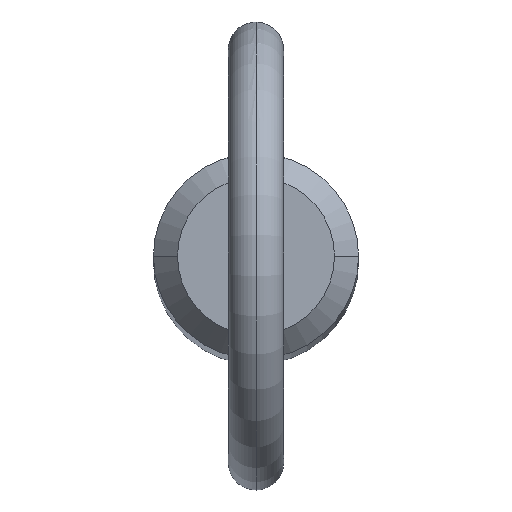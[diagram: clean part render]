
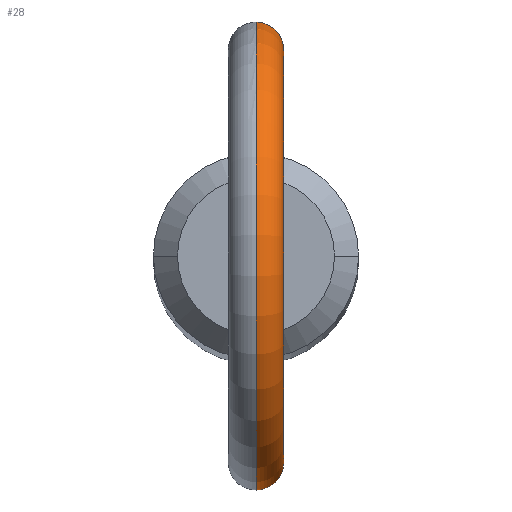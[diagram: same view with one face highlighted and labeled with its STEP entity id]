
A CAD part, top view. The second image highlights one B-rep face of the part: STEP entity #28.
In plain terms, the highlighted toroidal (fillet/blend) face has major radius 11.2 mm and minor radius 1.5 mm.
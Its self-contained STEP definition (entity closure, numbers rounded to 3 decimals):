
#6 = CARTESIAN_POINT ( 'NONE',  ( 0.419, 5.535, 158.832 ) ) ;
#17 = EDGE_LOOP ( 'NONE', ( #433, #229, #260, #74 ) ) ;
#19 = CARTESIAN_POINT ( 'NONE',  ( 1.295, -5.397, 161.282 ) ) ;
#28 = ADVANCED_FACE ( 'NONE', ( #51 ), #295, .T. ) ;
#31 = CARTESIAN_POINT ( 'NONE',  ( 1.26, -5.407, 159.443 ) ) ;
#32 = DIRECTION ( 'NONE',  ( 0., 0., -1. ) ) ;
#48 = VERTEX_POINT ( 'NONE', #136 ) ;
#51 = FACE_OUTER_BOUND ( 'NONE', #17, .T. ) ;
#56 = EDGE_CURVE ( 'NONE', #490, #170, #355, .T. ) ;
#63 = CARTESIAN_POINT ( 'NONE',  ( 0.421, -5.535, 158.832 ) ) ;
#72 = CARTESIAN_POINT ( 'NONE',  ( 0.107, -5.55, 158.777 ) ) ;
#74 = ORIENTED_EDGE ( 'NONE', *, *, #316, .F. ) ;
#80 = CARTESIAN_POINT ( 'NONE',  ( 1.003, 5.459, 161.725 ) ) ;
#82 = CARTESIAN_POINT ( 'NONE',  ( 0.81, 5.494, 158.995 ) ) ;
#90 = CARTESIAN_POINT ( 'NONE',  ( 0., 0., 170.2 ) ) ;
#97 = CARTESIAN_POINT ( 'NONE',  ( 0.214, -5.547, 162.228 ) ) ;
#98 = AXIS2_PLACEMENT_3D ( 'NONE', #90, #307, #392 ) ;
#101 = CARTESIAN_POINT ( 'NONE',  ( 1.503, -5.343, 160.359 ) ) ;
#112 = CIRCLE ( 'NONE', #157, 9.7 ) ;
#119 = CARTESIAN_POINT ( 'NONE',  ( 0.779, 5.496, 161.948 ) ) ;
#120 = CARTESIAN_POINT ( 'NONE',  ( 1.485, 5.348, 160.678 ) ) ;
#122 = CARTESIAN_POINT ( 'NONE',  ( 0.212, 5.547, 158.788 ) ) ;
#136 = CARTESIAN_POINT ( 'NONE',  ( 0., 5.55, 158.777 ) ) ;
#139 = CARTESIAN_POINT ( 'NONE',  ( 1.363, -5.38, 159.634 ) ) ;
#156 = CARTESIAN_POINT ( 'NONE',  ( 0., 0., 170.2 ) ) ;
#157 = AXIS2_PLACEMENT_3D ( 'NONE', #156, #397, #32 ) ;
#162 = CARTESIAN_POINT ( 'NONE',  ( 0.213, 5.55, 162.245 ) ) ;
#170 = VERTEX_POINT ( 'NONE', #522 ) ;
#172 = CARTESIAN_POINT ( 'NONE',  ( 0., -5.55, 162.245 ) ) ;
#184 = CARTESIAN_POINT ( 'NONE',  ( 1.486, -5.347, 160.674 ) ) ;
#189 = CARTESIAN_POINT ( 'NONE',  ( 0.213, -5.547, 158.788 ) ) ;
#194 = CARTESIAN_POINT ( 'NONE',  ( 0.977, -5.464, 159.132 ) ) ;
#195 = CARTESIAN_POINT ( 'NONE',  ( 0., 5.55, 162.245 ) ) ;
#197 = CARTESIAN_POINT ( 'NONE',  ( 1.455, -5.356, 159.938 ) ) ;
#208 = CARTESIAN_POINT ( 'NONE',  ( 1.393, 5.372, 159.733 ) ) ;
#213 = CARTESIAN_POINT ( 'NONE',  ( 0.522, 5.526, 158.865 ) ) ;
#225 = CARTESIAN_POINT ( 'NONE',  ( 0.106, -5.55, 162.245 ) ) ;
#229 = ORIENTED_EDGE ( 'NONE', *, *, #343, .T. ) ;
#231 = CARTESIAN_POINT ( 'NONE',  ( 0.786, -5.497, 161.957 ) ) ;
#235 = CARTESIAN_POINT ( 'NONE',  ( 0.716, -5.504, 158.952 ) ) ;
#252 = CARTESIAN_POINT ( 'NONE',  ( 1.44, 5.36, 160.888 ) ) ;
#256 = CARTESIAN_POINT ( 'NONE',  ( 1.486, 5.348, 160.038 ) ) ;
#258 = CARTESIAN_POINT ( 'NONE',  ( 0., 5.55, 158.777 ) ) ;
#260 = ORIENTED_EDGE ( 'NONE', *, *, #56, .F. ) ;
#272 = CARTESIAN_POINT ( 'NONE',  ( 1.194, -5.422, 161.471 ) ) ;
#282 = CARTESIAN_POINT ( 'NONE',  ( 1.477, -5.35, 160.044 ) ) ;
#294 = CARTESIAN_POINT ( 'NONE',  ( 1.194, 5.422, 161.472 ) ) ;
#295 = TOROIDAL_SURFACE ( 'NONE', #98, 11.2, 1.5 ) ;
#300 = CARTESIAN_POINT ( 'NONE',  ( 1.19, 5.421, 159.362 ) ) ;
#307 = DIRECTION ( 'NONE',  ( 1., 0., 0. ) ) ;
#316 = EDGE_CURVE ( 'NONE', #393, #490, #112, .T. ) ;
#328 = CARTESIAN_POINT ( 'NONE',  ( 0., -5.55, 158.777 ) ) ;
#329 = CARTESIAN_POINT ( 'NONE',  ( 0., 0., 170.2 ) ) ;
#338 = CARTESIAN_POINT ( 'NONE',  ( 1.352, 5.383, 159.635 ) ) ;
#343 = EDGE_CURVE ( 'NONE', #48, #170, #437, .T. ) ;
#349 = CARTESIAN_POINT ( 'NONE',  ( 1.44, -5.36, 160.886 ) ) ;
#355 = B_SPLINE_CURVE_WITH_KNOTS ( 'NONE', 3,
 ( #172, #225, #97, #388, #463, #231, #503, #272, #19, #349, #184, #101, #521, #282, #197, #139, #31, #514, #194, #470, #235, #509, #63, #189, #72, #328 ),
 .UNSPECIFIED., .F., .F.,
 ( 4, 2, 2, 2, 2, 2, 2, 2, 2, 2, 2, 2, 4 ),
 ( 0.005, 0.005, 0.005, 0.006, 0.006, 0.007, 0.007, 0.008, 0.008, 0.009, 0.009, 0.009, 0.01 ),
 .UNSPECIFIED. ) ;
#367 = CARTESIAN_POINT ( 'NONE',  ( 0.933, 5.472, 161.804 ) ) ;
#369 = CARTESIAN_POINT ( 'NONE',  ( 0.107, 5.55, 158.777 ) ) ;
#371 = AXIS2_PLACEMENT_3D ( 'NONE', #329, #444, #476 ) ;
#388 = CARTESIAN_POINT ( 'NONE',  ( 0.417, -5.535, 162.167 ) ) ;
#392 = DIRECTION ( 'NONE',  ( 0., 0., -1. ) ) ;
#393 = VERTEX_POINT ( 'NONE', #195 ) ;
#397 = DIRECTION ( 'NONE',  ( 1., 0., 0. ) ) ;
#408 = CARTESIAN_POINT ( 'NONE',  ( 0.694, 5.507, 162.014 ) ) ;
#412 = CARTESIAN_POINT ( 'NONE',  ( 0.422, 5.537, 162.178 ) ) ;
#433 = ORIENTED_EDGE ( 'NONE', *, *, #501, .F. ) ;
#437 = CIRCLE ( 'NONE', #371, 12.7 ) ;
#444 = DIRECTION ( 'NONE',  ( 1., 0., 0. ) ) ;
#451 = CARTESIAN_POINT ( 'NONE',  ( 1.251, 5.407, 159.45 ) ) ;
#455 = CARTESIAN_POINT ( 'NONE',  ( 0., 5.55, 162.245 ) ) ;
#458 = CARTESIAN_POINT ( 'NONE',  ( 0., -5.55, 162.245 ) ) ;
#463 = CARTESIAN_POINT ( 'NONE',  ( 0.515, -5.527, 162.122 ) ) ;
#470 = CARTESIAN_POINT ( 'NONE',  ( 0.807, -5.492, 159.006 ) ) ;
#476 = DIRECTION ( 'NONE',  ( 0., 0., -1. ) ) ;
#482 = B_SPLINE_CURVE_WITH_KNOTS ( 'NONE', 3,
 ( #258, #369, #122, #6, #213, #82, #489, #300, #451, #338, #208, #256, #487, #120, #252, #526, #294, #80, #367, #119, #408, #412, #162, #455 ),
 .UNSPECIFIED., .F., .F.,
 ( 4, 2, 2, 2, 2, 2, 2, 2, 2, 2, 2, 4 ),
 ( 0.001, 0.001, 0.001, 0.002, 0.002, 0.002, 0.003, 0.004, 0.004, 0.005, 0.005, 0.006 ),
 .UNSPECIFIED. ) ;
#487 = CARTESIAN_POINT ( 'NONE',  ( 1.509, 5.341, 160.253 ) ) ;
#489 = CARTESIAN_POINT ( 'NONE',  ( 0.984, 5.464, 159.124 ) ) ;
#490 = VERTEX_POINT ( 'NONE', #458 ) ;
#501 = EDGE_CURVE ( 'NONE', #48, #393, #482, .T. ) ;
#503 = CARTESIAN_POINT ( 'NONE',  ( 0.941, -5.471, 161.807 ) ) ;
#509 = CARTESIAN_POINT ( 'NONE',  ( 0.523, -5.526, 158.866 ) ) ;
#514 = CARTESIAN_POINT ( 'NONE',  ( 1.055, -5.449, 159.205 ) ) ;
#521 = CARTESIAN_POINT ( 'NONE',  ( 1.5, -5.343, 160.254 ) ) ;
#522 = CARTESIAN_POINT ( 'NONE',  ( 0., -5.55, 158.777 ) ) ;
#526 = CARTESIAN_POINT ( 'NONE',  ( 1.294, 5.398, 161.285 ) ) ;
